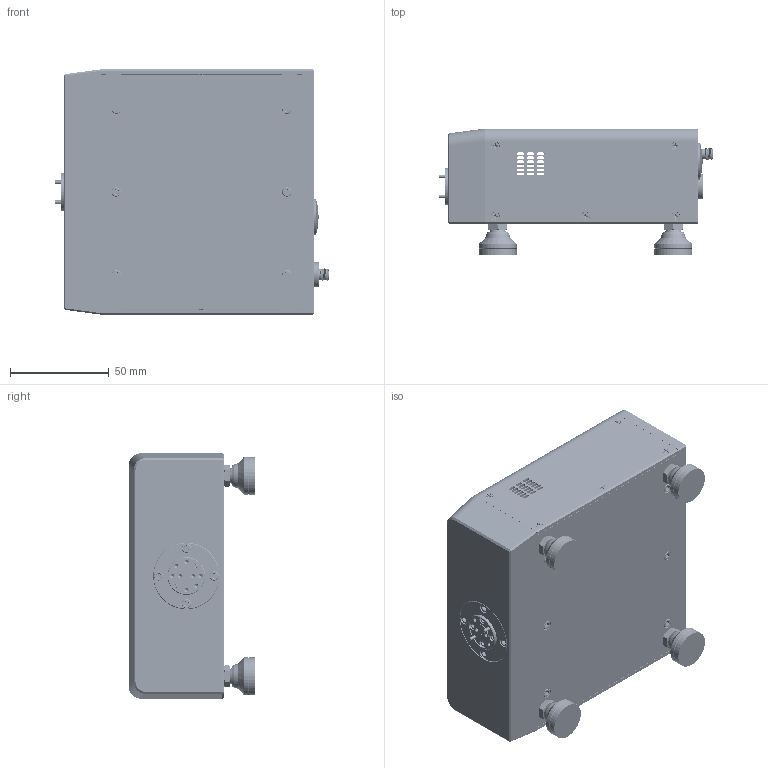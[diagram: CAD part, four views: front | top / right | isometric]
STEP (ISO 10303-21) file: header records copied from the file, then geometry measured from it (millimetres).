
FILE_DESCRIPTION (( 'STEP AP214' ), '1' );
FILE_NAME ('TC-F-A-IDP.STEP', '2026-01-02T22:58:19', ( '' ), ( '' ), 'SwSTEP 2.0', 'SolidWorks 2021', '' );
FILE_SCHEMA (( 'AUTOMOTIVE_DESIGN' ));
Length unit declared in the file: inch
Products named in the file (1): TC-F-A-IDP
Bounding box: 139.21 x 64.14 x 124.32 mm (x, y, z)
Volume: 283258.9 mm3; surface area: 148502.6 mm2
Topology: 49 solids, 49 shells, 3394 faces, 9143 edges, 5807 vertices
Faces by surface type: cylinder 1804, plane 878, cone 612, bspline 77, sphere 19, torus 4
Entity records: 201180 total; most frequent: CARTESIAN_POINT 79754, ORIENTED_EDGE 17846, DIRECTION 14258, EDGE_CURVE 8923, VERTEX_POINT 5782, AXIS2_PLACEMENT_3D 5269, EDGE_LOOP 3725, VECTOR 3720
